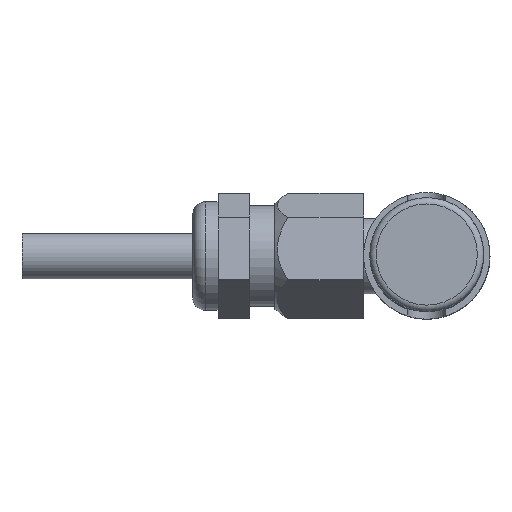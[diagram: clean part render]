
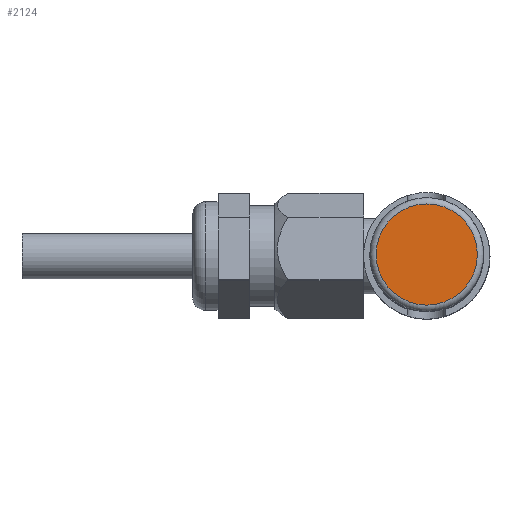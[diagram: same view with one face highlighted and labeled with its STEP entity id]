
A CAD part, top view. The second image highlights one B-rep face of the part: STEP entity #2124.
In plain terms, the highlighted planar face has unit normal (0, 0, 1).
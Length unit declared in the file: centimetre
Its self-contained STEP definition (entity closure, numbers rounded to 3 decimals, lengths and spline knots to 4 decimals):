
#338=PLANE('',#2268);
#704=CIRCLE('',#2267,0.4);
#842=VERTEX_POINT('',#4075);
#1098=EDGE_CURVE('',#842,#842,#704,.T.);
#1427=ORIENTED_EDGE('',*,*,#1098,.F.);
#1847=EDGE_LOOP('',(#1427));
#1989=FACE_BOUND('',#1847,.T.);
#2124=ADVANCED_FACE('',(#1989),#338,.T.);
#2267=AXIS2_PLACEMENT_3D('',#4074,#2524,#2525);
#2268=AXIS2_PLACEMENT_3D('',#4076,#2526,$);
#2524=DIRECTION('',(0.,0.,-1.));
#2525=DIRECTION('',(-0.4,0.,0.));
#2526=DIRECTION('',(0.,0.,1.));
#4074=CARTESIAN_POINT('',(0.,0.,5.61));
#4075=CARTESIAN_POINT('',(0.4,0.,5.61));
#4076=CARTESIAN_POINT('',(0.,0.,5.61));
